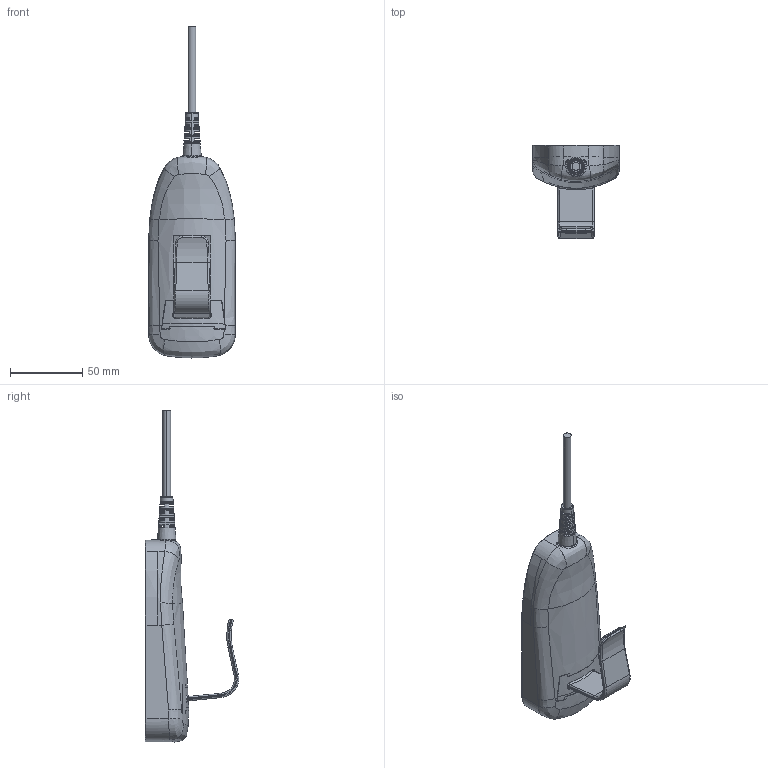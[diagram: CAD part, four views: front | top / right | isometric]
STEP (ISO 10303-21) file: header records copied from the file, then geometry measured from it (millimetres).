
FILE_DESCRIPTION((''),'2;1');
FILE_NAME('HS13','2020-08-19T',('USER'),(''),'PRO/ENGINEER BY PARAMETRIC TECHNOLOGY CORPORATION, 2008090','PRO/ENGINEER BY PARAMETRIC TECHNOLOGY CORPORATION, 2008090','');
FILE_SCHEMA(('CONFIG_CONTROL_DESIGN'));
Length unit declared in the file: millimetre
Products named in the file (1): HS13
Bounding box: 60 x 64.75 x 230 mm (x, y, z)
Volume: 69185 mm3; surface area: 61773.2 mm2
Topology: 1 solids, 7 shells, 860 faces, 2308 edges, 1505 vertices
Faces by surface type: plane 327, cylinder 278, bspline 123, torus 82, cone 26, extrusion 24
Entity records: 34524 total; most frequent: CARTESIAN_POINT 14059, ORIENTED_EDGE 4602, DIRECTION 3808, EDGE_CURVE 2308, VERTEX_POINT 1505, AXIS2_PLACEMENT_3D 1449, EDGE_LOOP 926, VECTOR 910
